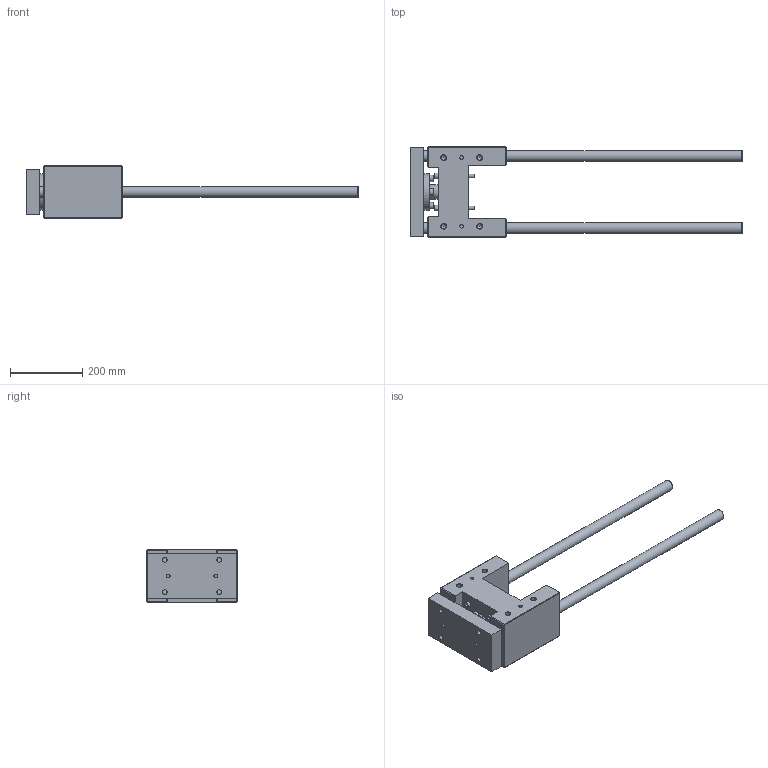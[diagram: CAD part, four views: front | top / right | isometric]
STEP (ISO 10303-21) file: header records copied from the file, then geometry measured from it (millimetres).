
FILE_DESCRIPTION( ( 'STEP AP214' ), '1' );
FILE_NAME( 'U:/Etudes/Top Solid/BIBLIO 3D AVM/TOP/PNEUMATIQUE/GUIDAGES/Type 32 (en H)/R_Renforcée/329R9230.step', '2005-05-27T09:26:46', ( ' ' ), ( ' ' ), 'XStep 1.0', ' ', ' ' );
FILE_SCHEMA( ( 'automotive_design' ) );
Length unit declared in the file: metre
Products named in the file (2): 1; 2
Bounding box: 920 x 252 x 148 mm (x, y, z)
Volume: 7223872.5 mm3; surface area: 627474.7 mm2
Topology: 2 solids, 7 shells, 239 faces, 527 edges, 341 vertices
Faces by surface type: plane 149, cylinder 69, cone 21
Full cylindrical faces by diameter (mm): 10 x12, 10.106 x4, 11 x4, 12 x8, 13 x8, 13.835 x8, 16 x4, 18 x4, 18.376 x2, 20 x4, 30 x4, 39 x1, 42 x1, 55 x1, 57 x1, 60 x1, 65 x1, 100 x1
Entity records: 7933 total; most frequent: CARTESIAN_POINT 1201, DIRECTION 1000, ORIENTED_EDGE 786, EDGE_CURVE 393, EDGE_LOOP 392, AXIS2_PLACEMENT_3D 374, FACE_OUTER_BOUND 308, VERTEX_POINT 303
